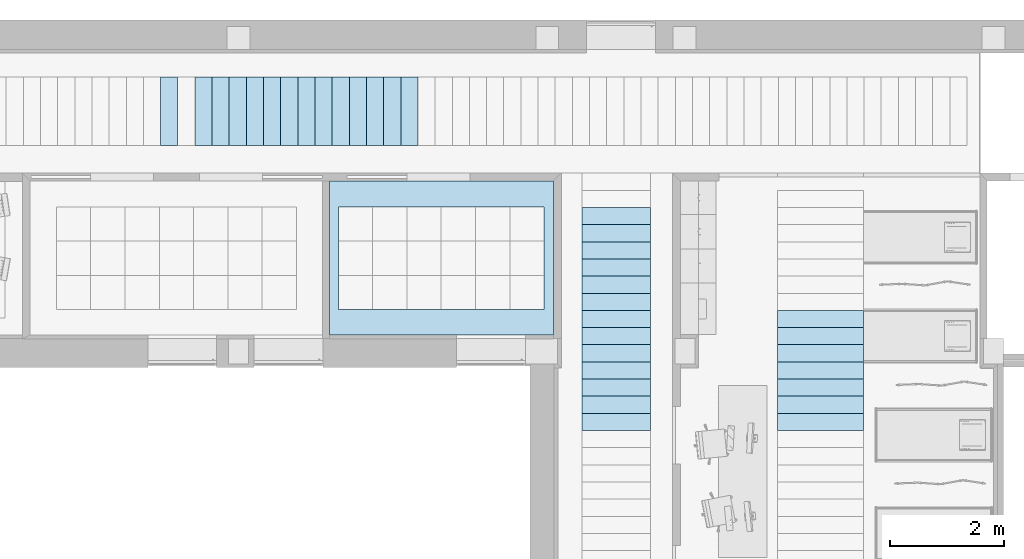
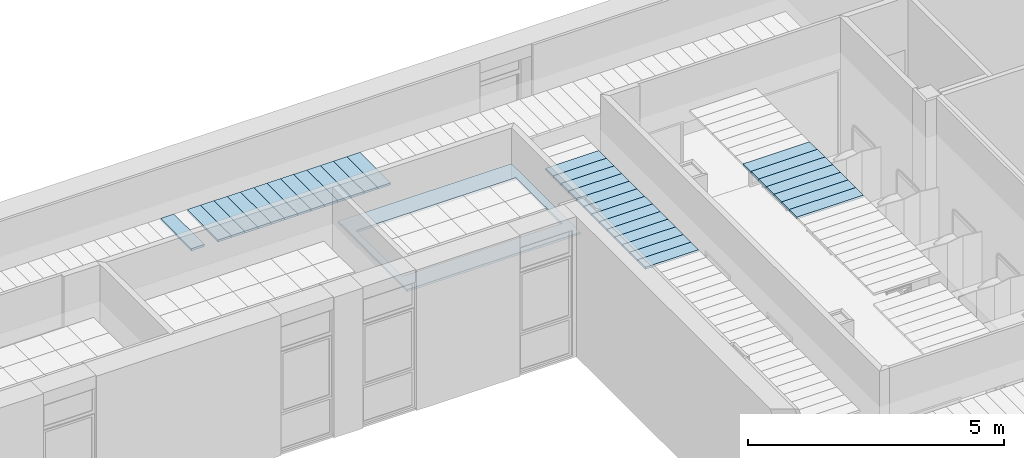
# One storey, part 11 of 68: 35 slabs.
"""IFC2X3 building model written with IfcOpenShell, lengths in millimetres."""

from ifc_helpers import new_model, entity, si_unit, converted_unit, derived_unit, money_unit, direction, frame, origin_with_axes, place, context, subcontext, project, spatial, polyline, outline, extrude, material, layer, layer_set, layer_usage, type_object, element, save


model = new_model("IFC2X3")

# Units and contexts
model_context = context("Model", 3, precision=0.01, world=origin_with_axes(), true_north=direction((0.0, 1.0)))
body_context = subcontext(model_context, "Body", "Model", "MODEL_VIEW")
ifc_project = project(units=[si_unit("LENGTHUNIT", "METRE", prefix="MILLI"), si_unit("AREAUNIT", "SQUARE_METRE"), si_unit("VOLUMEUNIT", "CUBIC_METRE"), converted_unit("PLANEANGLEUNIT", "DEGREE", entity("IfcPlaneAngleMeasure", 0.0174532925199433), si_unit("PLANEANGLEUNIT", "RADIAN"), dimensions=[0, 0, 0, 0, 0, 0, 0]), money_unit("USD"), converted_unit("TIMEUNIT", "Year", entity("IfcTimeMeasure", 31557600.0), si_unit("TIMEUNIT", "SECOND"), dimensions=[0, 0, 1, 0, 0, 0, 0]), si_unit("MASSUNIT", "GRAM", prefix="KILO"), si_unit("THERMODYNAMICTEMPERATUREUNIT", "DEGREE_CELSIUS"), si_unit("LUMINOUSINTENSITYUNIT", "LUMEN"), si_unit("ENERGYUNIT", "JOULE", prefix="MEGA"), derived_unit("THERMALCONDUCTANCEUNIT", [(si_unit("POWERUNIT", "WATT"), 1), (si_unit("LENGTHUNIT", "METRE"), -1), (si_unit("THERMODYNAMICTEMPERATUREUNIT", "KELVIN"), -1)]), derived_unit("SPECIFICHEATCAPACITYUNIT", [(si_unit("ENERGYUNIT", "JOULE"), 1), (si_unit("MASSUNIT", "GRAM", prefix="KILO"), -1), (si_unit("THERMODYNAMICTEMPERATUREUNIT", "KELVIN"), -1)]), derived_unit("MASSDENSITYUNIT", [(si_unit("MASSUNIT", "GRAM", prefix="KILO"), 1), (si_unit("VOLUMEUNIT", "CUBIC_METRE"), -1)])], contexts=[model_context])

# Site, building, storey
site_placement = place(None, origin_with_axes())
site = spatial("IfcSite", under=ifc_project, at=site_placement, Name="Sitio", CompositionType="ELEMENT")
building_placement = place(site_placement, origin_with_axes())
building = spatial("IfcBuilding", under=site, at=building_placement, Name="Construcción", CompositionType="ELEMENT")
storey_placement = place(building_placement, origin_with_axes())
storey = spatial("IfcBuildingStorey", under=building, at=storey_placement, Name="PLANTA 1ª", CompositionType="ELEMENT", Elevation=0.0)

# Slabs
ifc_material_1 = material(Name="ARQ_ME126_CelRas_Placa_Metallica")
ifc_layer_1 = layer(ifc_material_1, 50.0, ventilated="UNKNOWN")
ifc_layer_set_1 = layer_set([ifc_layer_1], Name="ARQ_ME126_CelRas_Placa_Metallica 50")
ifc_layer_usage_1 = layer_usage(ifc_layer_set_1, "AXIS3", "NEGATIVE", 50.0)
slab_type_1 = type_object("IfcSlabType", Name="ARQ_ME126_CelRas_Placa_Metallica 50", PredefinedType="NOTDEFINED")
slab_1_placement = place(storey_placement, frame((-1192.609613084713, -2799.146944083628, 2500.0), z_axis=(0.0, 0.0, 1.0), x_axis=(1.0, 0.0, 0.0)))
element("IfcSlab", 1, at=slab_1_placement, inside=storey, type_object=slab_type_1, material=ifc_layer_usage_1, Name="SLA - 026", PredefinedType="NOTDEFINED", context=body_context, shape_type="SweptSolid", body=[
    extrude(outline(polyline([(0.0, 0.0), (1199.999999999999, 0.0), (1199.999999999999, 299.9999999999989), (0.0, 299.9999999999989), (0.0, 0.0)])), frame((0.0, 0.0, -50.0), z_axis=(0.0, 0.0, 1.0), x_axis=(1.0, 0.0, 0.0)), (0.0, 0.0, 1.0), 50.0),
])
ifc_layer_usage_2 = layer_usage(ifc_layer_set_1, "AXIS3", "NEGATIVE", 50.0)
slab_2_placement = place(storey_placement, frame((-1192.609613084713, -2499.146944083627, 2500.0), z_axis=(0.0, 0.0, 1.0), x_axis=(1.0, 0.0, 0.0)))
element("IfcSlab", 2, at=slab_2_placement, inside=storey, type_object=slab_type_1, material=ifc_layer_usage_2, Name="SLA - 026", PredefinedType="NOTDEFINED", context=body_context, shape_type="SweptSolid", body=[
    extrude(outline(polyline([(0.0, 0.0), (1199.999999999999, 0.0), (1199.999999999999, 299.9999999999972), (0.0, 299.9999999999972), (0.0, 0.0)])), frame((0.0, 0.0, -50.0), z_axis=(0.0, 0.0, 1.0), x_axis=(1.0, 0.0, 0.0)), (0.0, 0.0, 1.0), 50.0),
])
ifc_layer_usage_3 = layer_usage(ifc_layer_set_1, "AXIS3", "NEGATIVE", 50.0)
slab_3_placement = place(storey_placement, frame((-1192.609613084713, -1899.146944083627, 2500.0), z_axis=(0.0, 0.0, 1.0), x_axis=(1.0, 0.0, 0.0)))
element("IfcSlab", 3, at=slab_3_placement, inside=storey, type_object=slab_type_1, material=ifc_layer_usage_3, Name="SLA - 026", PredefinedType="NOTDEFINED", context=body_context, shape_type="SweptSolid", body=[
    extrude(outline(polyline([(0.0, 0.0), (1199.999999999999, 0.0), (1199.999999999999, 299.9999999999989), (0.0, 299.9999999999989), (0.0, 0.0)])), frame((0.0, 0.0, -50.0), z_axis=(0.0, 0.0, 1.0), x_axis=(1.0, 0.0, 0.0)), (0.0, 0.0, 1.0), 50.0),
])
ifc_layer_usage_4 = layer_usage(ifc_layer_set_1, "AXIS3", "NEGATIVE", 50.0)
slab_4_placement = place(storey_placement, frame((-1192.609613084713, -1599.146944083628, 2500.0), z_axis=(0.0, 0.0, 1.0), x_axis=(1.0, 0.0, 0.0)))
element("IfcSlab", 4, at=slab_4_placement, inside=storey, type_object=slab_type_1, material=ifc_layer_usage_4, Name="SLA - 026", PredefinedType="NOTDEFINED", context=body_context, shape_type="SweptSolid", body=[
    extrude(outline(polyline([(0.0, 0.0), (1199.999999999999, 0.0), (1199.999999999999, 299.9999999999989), (0.0, 299.9999999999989), (0.0, 0.0)])), frame((0.0, 0.0, -50.0), z_axis=(0.0, 0.0, 1.0), x_axis=(1.0, 0.0, 0.0)), (0.0, 0.0, 1.0), 50.0),
])
ifc_layer_usage_5 = layer_usage(ifc_layer_set_1, "AXIS3", "NEGATIVE", 50.0)
slab_5_placement = place(storey_placement, frame((-1192.609613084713, -1299.146944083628, 2500.0), z_axis=(0.0, 0.0, 1.0), x_axis=(1.0, 0.0, 0.0)))
element("IfcSlab", 5, at=slab_5_placement, inside=storey, type_object=slab_type_1, material=ifc_layer_usage_5, Name="SLA - 026", PredefinedType="NOTDEFINED", context=body_context, shape_type="SweptSolid", body=[
    extrude(outline(polyline([(0.0, 0.0), (1199.999999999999, 0.0), (1199.999999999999, 299.9999999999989), (0.0, 299.9999999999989), (0.0, 0.0)])), frame((0.0, 0.0, -50.0), z_axis=(0.0, 0.0, 1.0), x_axis=(1.0, 0.0, 0.0)), (0.0, 0.0, 1.0), 50.0),
])
ifc_layer_usage_6 = layer_usage(ifc_layer_set_1, "AXIS3", "NEGATIVE", 50.0)
slab_6_placement = place(storey_placement, frame((-1192.609613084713, -2199.146944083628, 2500.0), z_axis=(0.0, 0.0, 1.0), x_axis=(1.0, 0.0, 0.0)))
element("IfcSlab", 6, at=slab_6_placement, inside=storey, type_object=slab_type_1, material=ifc_layer_usage_6, Name="SLA - 026", PredefinedType="NOTDEFINED", context=body_context, shape_type="SweptSolid", body=[
    extrude(outline(polyline([(0.0, 0.0), (1199.999999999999, 0.0), (1199.999999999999, 299.9999999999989), (0.0, 299.9999999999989), (0.0, 0.0)])), frame((0.0, 0.0, -50.0), z_axis=(0.0, 0.0, 1.0), x_axis=(1.0, 0.0, 0.0)), (0.0, 0.0, 1.0), 50.0),
])
ifc_layer_usage_7 = layer_usage(ifc_layer_set_1, "AXIS3", "NEGATIVE", 50.0)
slab_7_placement = place(storey_placement, frame((-1192.609613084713, -399.1469440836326, 2500.0), z_axis=(0.0, 0.0, 1.0), x_axis=(1.0, 0.0, 0.0)))
element("IfcSlab", 7, at=slab_7_placement, inside=storey, type_object=slab_type_1, material=ifc_layer_usage_7, Name="SLA - 026", PredefinedType="NOTDEFINED", context=body_context, shape_type="SweptSolid", body=[
    extrude(outline(polyline([(0.0, 0.0), (1200.0, 0.0), (1200.0, 299.9999999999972), (0.0, 299.9999999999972), (0.0, 0.0)])), frame((0.0, 0.0, -50.0), z_axis=(0.0, 0.0, 1.0), x_axis=(1.0, 0.0, 0.0)), (0.0, 0.0, 1.0), 50.0),
])
ifc_layer_usage_8 = layer_usage(ifc_layer_set_1, "AXIS3", "NEGATIVE", 50.0)
slab_8_placement = place(storey_placement, frame((-1192.609613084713, -999.146944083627, 2500.0), z_axis=(0.0, 0.0, 1.0), x_axis=(1.0, 0.0, 0.0)))
element("IfcSlab", 8, at=slab_8_placement, inside=storey, type_object=slab_type_1, material=ifc_layer_usage_8, Name="SLA - 026", PredefinedType="NOTDEFINED", context=body_context, shape_type="SweptSolid", body=[
    extrude(outline(polyline([(0.0, 0.0), (1199.999999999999, 0.0), (1199.999999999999, 299.9999999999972), (0.0, 299.9999999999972), (0.0, 0.0)])), frame((0.0, 0.0, -50.0), z_axis=(0.0, 0.0, 1.0), x_axis=(1.0, 0.0, 0.0)), (0.0, 0.0, 1.0), 50.0),
])
ifc_layer_usage_9 = layer_usage(ifc_layer_set_1, "AXIS3", "NEGATIVE", 50.0)
slab_9_placement = place(storey_placement, frame((-1192.609613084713, -99.14694408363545, 2500.0), z_axis=(0.0, 0.0, 1.0), x_axis=(1.0, 0.0, 0.0)))
element("IfcSlab", 9, at=slab_9_placement, inside=storey, type_object=slab_type_1, material=ifc_layer_usage_9, Name="SLA - 026", PredefinedType="NOTDEFINED", context=body_context, shape_type="SweptSolid", body=[
    extrude(outline(polyline([(0.0, 0.0), (1200.0, 0.0), (1200.0, 299.9999999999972), (0.0, 299.9999999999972), (0.0, 0.0)])), frame((0.0, 0.0, -50.0), z_axis=(0.0, 0.0, 1.0), x_axis=(1.0, 0.0, 0.0)), (0.0, 0.0, 1.0), 50.0),
])
ifc_layer_usage_10 = layer_usage(ifc_layer_set_1, "AXIS3", "NEGATIVE", 50.0)
slab_10_placement = place(storey_placement, frame((-1192.609613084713, 200.8530559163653, 2500.0), z_axis=(0.0, 0.0, 1.0), x_axis=(1.0, 0.0, 0.0)))
element("IfcSlab", 10, at=slab_10_placement, inside=storey, type_object=slab_type_1, material=ifc_layer_usage_10, Name="SLA - 026", PredefinedType="NOTDEFINED", context=body_context, shape_type="SweptSolid", body=[
    extrude(outline(polyline([(0.0, 0.0), (1200.0, 0.0), (1200.0, 299.9999999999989), (0.0, 299.9999999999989), (0.0, 0.0)])), frame((0.0, 0.0, -50.0), z_axis=(0.0, 0.0, 1.0), x_axis=(1.0, 0.0, 0.0)), (0.0, 0.0, 1.0), 50.0),
])
ifc_layer_usage_11 = layer_usage(ifc_layer_set_1, "AXIS3", "NEGATIVE", 50.0)
slab_11_placement = place(storey_placement, frame((-1192.609613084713, 500.8530559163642, 2500.0), z_axis=(0.0, 0.0, 1.0), x_axis=(1.0, 0.0, 0.0)))
element("IfcSlab", 11, at=slab_11_placement, inside=storey, type_object=slab_type_1, material=ifc_layer_usage_11, Name="SLA - 026", PredefinedType="NOTDEFINED", context=body_context, shape_type="SweptSolid", body=[
    extrude(outline(polyline([(0.0, 0.0), (1200.0, 0.0), (1200.0, 299.9999999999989), (0.0, 299.9999999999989), (0.0, 0.0)])), frame((0.0, 0.0, -50.0), z_axis=(0.0, 0.0, 1.0), x_axis=(1.0, 0.0, 0.0)), (0.0, 0.0, 1.0), 50.0),
])
ifc_layer_usage_12 = layer_usage(ifc_layer_set_1, "AXIS3", "NEGATIVE", 50.0)
slab_12_placement = place(storey_placement, frame((-1192.609613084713, 800.853055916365, 2500.0), z_axis=(0.0, 0.0, 1.0), x_axis=(1.0, 0.0, 0.0)))
element("IfcSlab", 12, at=slab_12_placement, inside=storey, type_object=slab_type_1, material=ifc_layer_usage_12, Name="SLA - 026", PredefinedType="NOTDEFINED", context=body_context, shape_type="SweptSolid", body=[
    extrude(outline(polyline([(0.0, 0.0), (1200.0, 0.0), (1200.0, 299.9999999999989), (0.0, 299.9999999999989), (0.0, 0.0)])), frame((0.0, 0.0, -50.0), z_axis=(0.0, 0.0, 1.0), x_axis=(1.0, 0.0, 0.0)), (0.0, 0.0, 1.0), 50.0),
])
ifc_layer_usage_13 = layer_usage(ifc_layer_set_1, "AXIS3", "NEGATIVE", 50.0)
slab_13_placement = place(storey_placement, frame((-1192.609613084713, -699.1469440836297, 2500.0), z_axis=(0.0, 0.0, 1.0), x_axis=(1.0, 0.0, 0.0)))
element("IfcSlab", 13, at=slab_13_placement, inside=storey, type_object=slab_type_1, material=ifc_layer_usage_13, Name="SLA - 026", PredefinedType="NOTDEFINED", context=body_context, shape_type="SweptSolid", body=[
    extrude(outline(polyline([(0.0, 0.0), (1200.0, 0.0), (1200.0, 299.9999999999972), (0.0, 299.9999999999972), (0.0, 0.0)])), frame((0.0, 0.0, -50.0), z_axis=(0.0, 0.0, 1.0), x_axis=(1.0, 0.0, 0.0)), (0.0, 0.0, 1.0), 50.0),
])
ifc_layer_usage_14 = layer_usage(ifc_layer_set_1, "AXIS3", "NEGATIVE", 50.0)
slab_14_placement = place(storey_placement, frame((-8561.682865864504, 3382.153621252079, 2500.0), z_axis=(0.0, 0.0, 1.0), x_axis=(1.0, 0.0, 0.0)))
element("IfcSlab", 14, at=slab_14_placement, inside=storey, type_object=slab_type_1, material=ifc_layer_usage_14, Name="SLA - 026", PredefinedType="NOTDEFINED", context=body_context, shape_type="SweptSolid", body=[
    extrude(outline(polyline([(0.0, 0.0), (0.0, -1199.999999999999), (300.0000000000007, -1199.999999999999), (300.0000000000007, 0.0), (0.0, 0.0)])), frame((0.0, 0.0, -50.0), z_axis=(0.0, 0.0, 1.0), x_axis=(1.0, 0.0, 0.0)), (0.0, 0.0, 1.0), 50.0),
])
ifc_layer_usage_15 = layer_usage(ifc_layer_set_1, "AXIS3", "NEGATIVE", 50.0)
slab_15_placement = place(storey_placement, frame((-7961.682865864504, 3382.153621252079, 2500.0), z_axis=(0.0, 0.0, 1.0), x_axis=(1.0, 0.0, 0.0)))
element("IfcSlab", 15, at=slab_15_placement, inside=storey, type_object=slab_type_1, material=ifc_layer_usage_15, Name="SLA - 026", PredefinedType="NOTDEFINED", context=body_context, shape_type="SweptSolid", body=[
    extrude(outline(polyline([(0.0, 0.0), (0.0, -1199.999999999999), (300.0000000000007, -1199.999999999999), (300.0000000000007, 0.0), (0.0, 0.0)])), frame((0.0, 0.0, -50.0), z_axis=(0.0, 0.0, 1.0), x_axis=(1.0, 0.0, 0.0)), (0.0, 0.0, 1.0), 50.0),
])
ifc_layer_usage_16 = layer_usage(ifc_layer_set_1, "AXIS3", "NEGATIVE", 50.0)
slab_16_placement = place(storey_placement, frame((-7361.682865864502, 3382.153621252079, 2500.0), z_axis=(0.0, 0.0, 1.0), x_axis=(1.0, 0.0, 0.0)))
element("IfcSlab", 16, at=slab_16_placement, inside=storey, type_object=slab_type_1, material=ifc_layer_usage_16, Name="SLA - 026", PredefinedType="NOTDEFINED", context=body_context, shape_type="SweptSolid", body=[
    extrude(outline(polyline([(0.0, 0.0), (0.0, -1199.999999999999), (300.0000000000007, -1199.999999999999), (300.0000000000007, 0.0), (0.0, 0.0)])), frame((0.0, 0.0, -50.0), z_axis=(0.0, 0.0, 1.0), x_axis=(1.0, 0.0, 0.0)), (0.0, 0.0, 1.0), 50.0),
])
ifc_layer_usage_17 = layer_usage(ifc_layer_set_1, "AXIS3", "NEGATIVE", 50.0)
slab_17_placement = place(storey_placement, frame((-7661.682865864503, 3382.153621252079, 2500.0), z_axis=(0.0, 0.0, 1.0), x_axis=(1.0, 0.0, 0.0)))
element("IfcSlab", 17, at=slab_17_placement, inside=storey, type_object=slab_type_1, material=ifc_layer_usage_17, Name="SLA - 026", PredefinedType="NOTDEFINED", context=body_context, shape_type="SweptSolid", body=[
    extrude(outline(polyline([(0.0, 0.0), (0.0, -1199.999999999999), (300.0000000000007, -1199.999999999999), (300.0000000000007, 0.0), (0.0, 0.0)])), frame((0.0, 0.0, -50.0), z_axis=(0.0, 0.0, 1.0), x_axis=(1.0, 0.0, 0.0)), (0.0, 0.0, 1.0), 50.0),
])
ifc_layer_usage_18 = layer_usage(ifc_layer_set_1, "AXIS3", "NEGATIVE", 50.0)
slab_18_placement = place(storey_placement, frame((-7061.682865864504, 3382.153621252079, 2500.0), z_axis=(0.0, 0.0, 1.0), x_axis=(1.0, 0.0, 0.0)))
element("IfcSlab", 18, at=slab_18_placement, inside=storey, type_object=slab_type_1, material=ifc_layer_usage_18, Name="SLA - 026", PredefinedType="NOTDEFINED", context=body_context, shape_type="SweptSolid", body=[
    extrude(outline(polyline([(0.0, 0.0), (0.0, -1199.999999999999), (300.0000000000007, -1199.999999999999), (300.0000000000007, 0.0), (0.0, 0.0)])), frame((0.0, 0.0, -50.0), z_axis=(0.0, 0.0, 1.0), x_axis=(1.0, 0.0, 0.0)), (0.0, 0.0, 1.0), 50.0),
])
ifc_layer_usage_19 = layer_usage(ifc_layer_set_1, "AXIS3", "NEGATIVE", 50.0)
slab_19_placement = place(storey_placement, frame((-6761.682865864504, 3382.153621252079, 2500.0), z_axis=(0.0, 0.0, 1.0), x_axis=(1.0, 0.0, 0.0)))
element("IfcSlab", 19, at=slab_19_placement, inside=storey, type_object=slab_type_1, material=ifc_layer_usage_19, Name="SLA - 026", PredefinedType="NOTDEFINED", context=body_context, shape_type="SweptSolid", body=[
    extrude(outline(polyline([(0.0, 0.0), (0.0, -1199.999999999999), (300.0000000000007, -1199.999999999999), (300.0000000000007, 0.0), (0.0, 0.0)])), frame((0.0, 0.0, -50.0), z_axis=(0.0, 0.0, 1.0), x_axis=(1.0, 0.0, 0.0)), (0.0, 0.0, 1.0), 50.0),
])
ifc_layer_usage_20 = layer_usage(ifc_layer_set_1, "AXIS3", "NEGATIVE", 50.0)
slab_20_placement = place(storey_placement, frame((-6161.682865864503, 3382.153621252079, 2500.0), z_axis=(0.0, 0.0, 1.0), x_axis=(1.0, 0.0, 0.0)))
element("IfcSlab", 20, at=slab_20_placement, inside=storey, type_object=slab_type_1, material=ifc_layer_usage_20, Name="SLA - 026", PredefinedType="NOTDEFINED", context=body_context, shape_type="SweptSolid", body=[
    extrude(outline(polyline([(0.0, 0.0), (0.0, -1199.999999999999), (300.0000000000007, -1199.999999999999), (300.0000000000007, 0.0), (0.0, 0.0)])), frame((0.0, 0.0, -50.0), z_axis=(0.0, 0.0, 1.0), x_axis=(1.0, 0.0, 0.0)), (0.0, 0.0, 1.0), 50.0),
])
ifc_layer_usage_21 = layer_usage(ifc_layer_set_1, "AXIS3", "NEGATIVE", 50.0)
slab_21_placement = place(storey_placement, frame((-5561.682865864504, 3382.153621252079, 2500.0), z_axis=(0.0, 0.0, 1.0), x_axis=(1.0, 0.0, 0.0)))
element("IfcSlab", 21, at=slab_21_placement, inside=storey, type_object=slab_type_1, material=ifc_layer_usage_21, Name="SLA - 026", PredefinedType="NOTDEFINED", context=body_context, shape_type="SweptSolid", body=[
    extrude(outline(polyline([(0.0, 0.0), (0.0, -1199.999999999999), (300.0000000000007, -1199.999999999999), (300.0000000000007, 0.0), (0.0, 0.0)])), frame((0.0, 0.0, -50.0), z_axis=(0.0, 0.0, 1.0), x_axis=(1.0, 0.0, 0.0)), (0.0, 0.0, 1.0), 50.0),
])
ifc_layer_usage_22 = layer_usage(ifc_layer_set_1, "AXIS3", "NEGATIVE", 50.0)
slab_22_placement = place(storey_placement, frame((-6461.682865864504, 3382.153621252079, 2500.0), z_axis=(0.0, 0.0, 1.0), x_axis=(1.0, 0.0, 0.0)))
element("IfcSlab", 22, at=slab_22_placement, inside=storey, type_object=slab_type_1, material=ifc_layer_usage_22, Name="SLA - 026", PredefinedType="NOTDEFINED", context=body_context, shape_type="SweptSolid", body=[
    extrude(outline(polyline([(0.0, 0.0), (0.0, -1199.999999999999), (300.0000000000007, -1199.999999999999), (300.0000000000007, 0.0), (0.0, 0.0)])), frame((0.0, 0.0, -50.0), z_axis=(0.0, 0.0, 1.0), x_axis=(1.0, 0.0, 0.0)), (0.0, 0.0, 1.0), 50.0),
])
ifc_layer_usage_23 = layer_usage(ifc_layer_set_1, "AXIS3", "NEGATIVE", 50.0)
slab_23_placement = place(storey_placement, frame((-4961.682865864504, 3382.153621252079, 2500.0), z_axis=(0.0, 0.0, 1.0), x_axis=(1.0, 0.0, 0.0)))
element("IfcSlab", 23, at=slab_23_placement, inside=storey, type_object=slab_type_1, material=ifc_layer_usage_23, Name="SLA - 026", PredefinedType="NOTDEFINED", context=body_context, shape_type="SweptSolid", body=[
    extrude(outline(polyline([(0.0, 0.0), (0.0, -1199.999999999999), (300.0000000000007, -1199.999999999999), (300.0000000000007, 0.0), (0.0, 0.0)])), frame((0.0, 0.0, -50.0), z_axis=(0.0, 0.0, 1.0), x_axis=(1.0, 0.0, 0.0)), (0.0, 0.0, 1.0), 50.0),
])
ifc_layer_usage_24 = layer_usage(ifc_layer_set_1, "AXIS3", "NEGATIVE", 50.0)
slab_24_placement = place(storey_placement, frame((-5261.682865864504, 3382.153621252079, 2500.0), z_axis=(0.0, 0.0, 1.0), x_axis=(1.0, 0.0, 0.0)))
element("IfcSlab", 24, at=slab_24_placement, inside=storey, type_object=slab_type_1, material=ifc_layer_usage_24, Name="SLA - 026", PredefinedType="NOTDEFINED", context=body_context, shape_type="SweptSolid", body=[
    extrude(outline(polyline([(0.0, 0.0), (0.0, -1199.999999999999), (300.0000000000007, -1199.999999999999), (300.0000000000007, 0.0), (0.0, 0.0)])), frame((0.0, 0.0, -50.0), z_axis=(0.0, 0.0, 1.0), x_axis=(1.0, 0.0, 0.0)), (0.0, 0.0, 1.0), 50.0),
])
ifc_layer_usage_25 = layer_usage(ifc_layer_set_1, "AXIS3", "NEGATIVE", 50.0)
slab_25_placement = place(storey_placement, frame((-4361.682865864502, 3382.153621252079, 2500.0), z_axis=(0.0, 0.0, 1.0), x_axis=(1.0, 0.0, 0.0)))
element("IfcSlab", 25, at=slab_25_placement, inside=storey, type_object=slab_type_1, material=ifc_layer_usage_25, Name="SLA - 026", PredefinedType="NOTDEFINED", context=body_context, shape_type="SweptSolid", body=[
    extrude(outline(polyline([(0.0, 0.0), (0.0, -1199.999999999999), (300.0000000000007, -1199.999999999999), (300.0000000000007, 0.0), (0.0, 0.0)])), frame((0.0, 0.0, -50.0), z_axis=(0.0, 0.0, 1.0), x_axis=(1.0, 0.0, 0.0)), (0.0, 0.0, 1.0), 50.0),
])
ifc_layer_usage_26 = layer_usage(ifc_layer_set_1, "AXIS3", "NEGATIVE", 50.0)
slab_26_placement = place(storey_placement, frame((-4661.682865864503, 3382.153621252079, 2500.0), z_axis=(0.0, 0.0, 1.0), x_axis=(1.0, 0.0, 0.0)))
element("IfcSlab", 26, at=slab_26_placement, inside=storey, type_object=slab_type_1, material=ifc_layer_usage_26, Name="SLA - 026", PredefinedType="NOTDEFINED", context=body_context, shape_type="SweptSolid", body=[
    extrude(outline(polyline([(0.0, 0.0), (0.0, -1199.999999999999), (300.0000000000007, -1199.999999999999), (300.0000000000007, 0.0), (0.0, 0.0)])), frame((0.0, 0.0, -50.0), z_axis=(0.0, 0.0, 1.0), x_axis=(1.0, 0.0, 0.0)), (0.0, 0.0, 1.0), 50.0),
])
ifc_layer_usage_27 = layer_usage(ifc_layer_set_1, "AXIS3", "NEGATIVE", 50.0)
slab_27_placement = place(storey_placement, frame((-5861.682865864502, 3382.153621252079, 2500.0), z_axis=(0.0, 0.0, 1.0), x_axis=(1.0, 0.0, 0.0)))
element("IfcSlab", 27, at=slab_27_placement, inside=storey, type_object=slab_type_1, material=ifc_layer_usage_27, Name="SLA - 026", PredefinedType="NOTDEFINED", context=body_context, shape_type="SweptSolid", body=[
    extrude(outline(polyline([(0.0, 0.0), (0.0, -1199.999999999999), (300.0000000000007, -1199.999999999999), (300.0000000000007, 0.0), (0.0, 0.0)])), frame((0.0, 0.0, -50.0), z_axis=(0.0, 0.0, 1.0), x_axis=(1.0, 0.0, 0.0)), (0.0, 0.0, 1.0), 50.0),
])
ifc_layer_usage_28 = layer_usage(ifc_layer_set_1, "AXIS3", "NEGATIVE", 50.0)
slab_28_placement = place(storey_placement, frame((3726.829256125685, -2499.14694408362, 2500.0), z_axis=(0.0, 0.0, 1.0), x_axis=(1.0, 0.0, 0.0)))
element("IfcSlab", 28, at=slab_28_placement, inside=storey, type_object=slab_type_1, material=ifc_layer_usage_28, Name="SLA - 026", PredefinedType="NOTDEFINED", context=body_context, shape_type="SweptSolid", body=[
    extrude(outline(polyline([(0.0, 0.0), (-1500.0, 0.0), (-1500.0, -299.9999999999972), (0.0, -299.9999999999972), (0.0, 0.0)])), frame((0.0, 0.0, -50.0), z_axis=(0.0, 0.0, 1.0), x_axis=(1.0, 0.0, 0.0)), (0.0, 0.0, 1.0), 50.0),
])
ifc_layer_usage_29 = layer_usage(ifc_layer_set_1, "AXIS3", "NEGATIVE", 50.0)
slab_29_placement = place(storey_placement, frame((3726.829256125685, -2199.14694408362, 2500.0), z_axis=(0.0, 0.0, 1.0), x_axis=(1.0, 0.0, 0.0)))
element("IfcSlab", 29, at=slab_29_placement, inside=storey, type_object=slab_type_1, material=ifc_layer_usage_29, Name="SLA - 026", PredefinedType="NOTDEFINED", context=body_context, shape_type="SweptSolid", body=[
    extrude(outline(polyline([(0.0, 0.0), (-1500.0, 0.0), (-1500.0, -299.9999999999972), (0.0, -299.9999999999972), (0.0, 0.0)])), frame((0.0, 0.0, -50.0), z_axis=(0.0, 0.0, 1.0), x_axis=(1.0, 0.0, 0.0)), (0.0, 0.0, 1.0), 50.0),
])
ifc_layer_usage_30 = layer_usage(ifc_layer_set_1, "AXIS3", "NEGATIVE", 50.0)
slab_30_placement = place(storey_placement, frame((3726.829256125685, -1899.14694408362, 2500.0), z_axis=(0.0, 0.0, 1.0), x_axis=(1.0, 0.0, 0.0)))
element("IfcSlab", 30, at=slab_30_placement, inside=storey, type_object=slab_type_1, material=ifc_layer_usage_30, Name="SLA - 026", PredefinedType="NOTDEFINED", context=body_context, shape_type="SweptSolid", body=[
    extrude(outline(polyline([(0.0, 0.0), (-1500.0, 0.0), (-1500.0, -299.9999999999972), (0.0, -299.9999999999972), (0.0, 0.0)])), frame((0.0, 0.0, -50.0), z_axis=(0.0, 0.0, 1.0), x_axis=(1.0, 0.0, 0.0)), (0.0, 0.0, 1.0), 50.0),
])
ifc_layer_usage_31 = layer_usage(ifc_layer_set_1, "AXIS3", "NEGATIVE", 50.0)
slab_31_placement = place(storey_placement, frame((3726.829256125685, -1599.14694408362, 2500.0), z_axis=(0.0, 0.0, 1.0), x_axis=(1.0, 0.0, 0.0)))
element("IfcSlab", 31, at=slab_31_placement, inside=storey, type_object=slab_type_1, material=ifc_layer_usage_31, Name="SLA - 026", PredefinedType="NOTDEFINED", context=body_context, shape_type="SweptSolid", body=[
    extrude(outline(polyline([(0.0, 0.0), (-1500.0, 0.0), (-1500.0, -299.9999999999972), (0.0, -299.9999999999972), (0.0, 0.0)])), frame((0.0, 0.0, -50.0), z_axis=(0.0, 0.0, 1.0), x_axis=(1.0, 0.0, 0.0)), (0.0, 0.0, 1.0), 50.0),
])
ifc_layer_usage_32 = layer_usage(ifc_layer_set_1, "AXIS3", "NEGATIVE", 50.0)
slab_32_placement = place(storey_placement, frame((3726.829256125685, -1299.146944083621, 2500.0), z_axis=(0.0, 0.0, 1.0), x_axis=(1.0, 0.0, 0.0)))
element("IfcSlab", 32, at=slab_32_placement, inside=storey, type_object=slab_type_1, material=ifc_layer_usage_32, Name="SLA - 026", PredefinedType="NOTDEFINED", context=body_context, shape_type="SweptSolid", body=[
    extrude(outline(polyline([(0.0, 0.0), (-1500.0, 0.0), (-1500.0, -299.9999999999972), (0.0, -299.9999999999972), (0.0, 0.0)])), frame((0.0, 0.0, -50.0), z_axis=(0.0, 0.0, 1.0), x_axis=(1.0, 0.0, 0.0)), (0.0, 0.0, 1.0), 50.0),
])
ifc_layer_usage_33 = layer_usage(ifc_layer_set_1, "AXIS3", "NEGATIVE", 50.0)
slab_33_placement = place(storey_placement, frame((3726.829256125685, -999.1469440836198, 2500.0), z_axis=(0.0, 0.0, 1.0), x_axis=(1.0, 0.0, 0.0)))
element("IfcSlab", 33, at=slab_33_placement, inside=storey, type_object=slab_type_1, material=ifc_layer_usage_33, Name="SLA - 026", PredefinedType="NOTDEFINED", context=body_context, shape_type="SweptSolid", body=[
    extrude(outline(polyline([(0.0, 0.0), (-1500.0, 0.0), (-1500.0, -299.9999999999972), (0.0, -299.9999999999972), (0.0, 0.0)])), frame((0.0, 0.0, -50.0), z_axis=(0.0, 0.0, 1.0), x_axis=(1.0, 0.0, 0.0)), (0.0, 0.0, 1.0), 50.0),
])
ifc_layer_usage_34 = layer_usage(ifc_layer_set_1, "AXIS3", "NEGATIVE", 50.0)
slab_34_placement = place(storey_placement, frame((3726.829256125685, -699.14694408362, 2500.0), z_axis=(0.0, 0.0, 1.0), x_axis=(1.0, 0.0, 0.0)))
element("IfcSlab", 34, at=slab_34_placement, inside=storey, type_object=slab_type_1, material=ifc_layer_usage_34, Name="SLA - 026", PredefinedType="NOTDEFINED", context=body_context, shape_type="SweptSolid", body=[
    extrude(outline(polyline([(0.0, 0.0), (-1500.0, 0.0), (-1500.0, -299.9999999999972), (0.0, -299.9999999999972), (0.0, 0.0)])), frame((0.0, 0.0, -50.0), z_axis=(0.0, 0.0, 1.0), x_axis=(1.0, 0.0, 0.0)), (0.0, 0.0, 1.0), 50.0),
])
ifc_material_2 = material(Name="ARQ_CG064_CelRas_Guix_Continu")
ifc_layer_2 = layer(ifc_material_2, 53.0, ventilated="UNKNOWN")
ifc_layer_set_2 = layer_set([ifc_layer_2], Name="ARQ_CG064_CelRas_Guix_Continu 53")
ifc_layer_usage_35 = layer_usage(ifc_layer_set_2, "AXIS3", "NEGATIVE", 53.0)
slab_type_2 = type_object("IfcSlabType", Name="ARQ_CG064_CelRas_Guix_Continu 53", PredefinedType="NOTDEFINED")
slab_35_placement = place(storey_placement, frame((-1690.109004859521, 1566.853046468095, 2500.0), z_axis=(0.0, 0.0, 1.0), x_axis=(1.0, 0.0, 0.0)))
element("IfcSlab", 35, at=slab_35_placement, inside=storey, type_object=slab_type_2, material=ifc_layer_usage_35, Name="SLA - 013", PredefinedType="NOTDEFINED", context=body_context, shape_type="SweptSolid", body=[
    extrude(outline(polyline([(0.0, 0.0), (-3914.845226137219, 0.0), (-3914.845226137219, -2695.828870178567), (0.0, -2695.828870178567), (0.0, 0.0)]), holes=[polyline([(-3764.845226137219, -2253.914485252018), (-3764.845226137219, -455.3806730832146), (-164.8452261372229, -455.3806730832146), (-164.8452261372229, -2253.914485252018), (-3764.845226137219, -2253.914485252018)])]), frame((0.0, 0.0, -53.0), z_axis=(0.0, 0.0, 1.0), x_axis=(1.0, 0.0, 0.0)), (0.0, 0.0, 1.0), 53.0),
])

save(model, "model.ifc")
